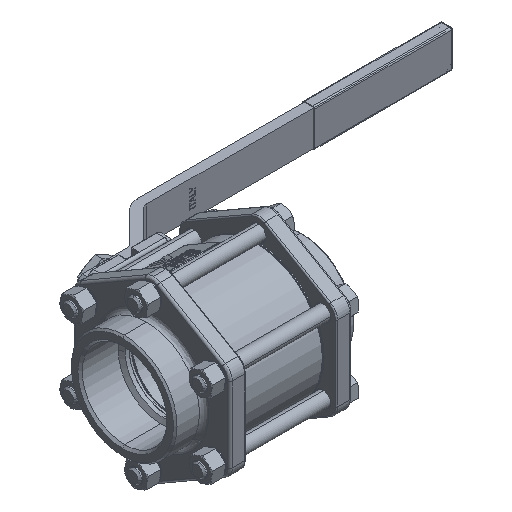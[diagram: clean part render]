
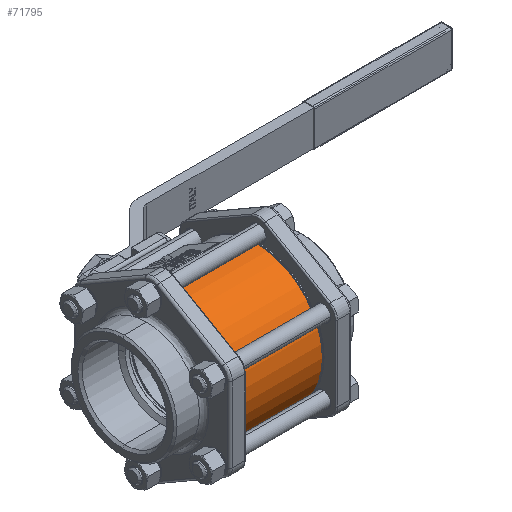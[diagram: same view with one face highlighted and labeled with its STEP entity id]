
A CAD part, isometric view. The second image highlights one B-rep face of the part: STEP entity #71795.
In plain terms, the highlighted cylindrical face has radius 56.5 mm (diameter 113 mm), a partial arc.
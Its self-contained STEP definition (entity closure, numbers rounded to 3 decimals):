
#52690 = DIRECTION ( 'NONE',  ( 1., 0., 0. ) ) ;
#52691 = CARTESIAN_POINT ( 'NONE',  ( -37.1, 0., 0. ) ) ;
#52692 = AXIS2_PLACEMENT_3D ( 'NONE', #52691, #52690, #52800 ) ;
#52693 = CIRCLE ( 'NONE', #52692, 56.5 ) ;
#52699 = CARTESIAN_POINT ( 'NONE',  ( -37.1, -56.5, 0. ) ) ;
#52798 = CARTESIAN_POINT ( 'NONE',  ( -37.1, 0., 56.5 ) ) ;
#52800 = DIRECTION ( 'NONE',  ( 0., 0., 1. ) ) ;
#54747 = CARTESIAN_POINT ( 'NONE',  ( 37.1, 0., -56.5 ) ) ;
#54882 = CARTESIAN_POINT ( 'NONE',  ( -37.1, 0., -56.5 ) ) ;
#54885 = DIRECTION ( 'NONE',  ( -1., 0., 0. ) ) ;
#54886 = VECTOR ( 'NONE', #54885, 1000. ) ;
#54888 = CARTESIAN_POINT ( 'NONE',  ( 37.1, 0., -56.5 ) ) ;
#54891 = LINE ( 'NONE', #54888, #54886 ) ;
#55339 = CARTESIAN_POINT ( 'NONE',  ( 37.1, -56.5, 0. ) ) ;
#55341 = DIRECTION ( 'NONE',  ( 0., 0., 1. ) ) ;
#55343 = DIRECTION ( 'NONE',  ( -1., 0., 0. ) ) ;
#55345 = CARTESIAN_POINT ( 'NONE',  ( 37.1, 0., 0. ) ) ;
#55346 = AXIS2_PLACEMENT_3D ( 'NONE', #55345, #55343, #55341 ) ;
#55348 = CIRCLE ( 'NONE', #55346, 56.5 ) ;
#55449 = CARTESIAN_POINT ( 'NONE',  ( 37.1, 0., 56.5 ) ) ;
#55452 = DIRECTION ( 'NONE',  ( -1., 0., 0. ) ) ;
#55454 = VECTOR ( 'NONE', #55452, 1000. ) ;
#55455 = CARTESIAN_POINT ( 'NONE',  ( 37.1, 0., 56.5 ) ) ;
#55458 = LINE ( 'NONE', #55455, #55454 ) ;
#66444 = VERTEX_POINT ( 'NONE', #52699 ) ;
#66448 = EDGE_CURVE ( 'NONE', #66451, #66444, #52693, .T. ) ;
#66451 = VERTEX_POINT ( 'NONE', #52798 ) ;
#66756 = VERTEX_POINT ( 'NONE', #54747 ) ;
#66763 = EDGE_CURVE ( 'NONE', #66756, #66765, #54891, .T. ) ;
#66765 = VERTEX_POINT ( 'NONE', #54882 ) ;
#66874 = EDGE_CURVE ( 'NONE', #66875, #66911, #55348, .T. ) ;
#66875 = VERTEX_POINT ( 'NONE', #55339 ) ;
#66910 = EDGE_CURVE ( 'NONE', #66911, #66451, #55458, .T. ) ;
#66911 = VERTEX_POINT ( 'NONE', #55449 ) ;
#68787 = DIRECTION ( 'NONE',  ( 0., 0., 1. ) ) ;
#68789 = DIRECTION ( 'NONE',  ( 1., 0., 0. ) ) ;
#68791 = CARTESIAN_POINT ( 'NONE',  ( -37.1, 0., 0. ) ) ;
#68793 = AXIS2_PLACEMENT_3D ( 'NONE', #68791, #68789, #68787 ) ;
#68803 = CIRCLE ( 'NONE', #68793, 56.5 ) ;
#68913 = DIRECTION ( 'NONE',  ( 0., 0., 1. ) ) ;
#68915 = DIRECTION ( 'NONE',  ( -1., 0., 0. ) ) ;
#68918 = CARTESIAN_POINT ( 'NONE',  ( 37.1, 0., 0. ) ) ;
#68920 = AXIS2_PLACEMENT_3D ( 'NONE', #68918, #68915, #68913 ) ;
#68923 = CIRCLE ( 'NONE', #68920, 56.5 ) ;
#69544 = DIRECTION ( 'NONE',  ( 0., 0., 1. ) ) ;
#69546 = DIRECTION ( 'NONE',  ( -1., 0., 0. ) ) ;
#69547 = AXIS2_PLACEMENT_3D ( 'NONE', #69559, #69546, #69544 ) ;
#69549 = CYLINDRICAL_SURFACE ( 'NONE', #69547, 56.5 ) ;
#69559 = CARTESIAN_POINT ( 'NONE',  ( 37.1, 0., 0. ) ) ;
#69561 = FACE_OUTER_BOUND ( 'NONE', #71613, .T. ) ;
#71613 = EDGE_LOOP ( 'NONE', ( #71615, #71617, #71620, #71625, #71628, #71630 ) ) ;
#71615 = ORIENTED_EDGE ( 'NONE', *, *, #66763, .F. ) ;
#71617 = ORIENTED_EDGE ( 'NONE', *, *, #71666, .T. ) ;
#71620 = ORIENTED_EDGE ( 'NONE', *, *, #66874, .T. ) ;
#71625 = ORIENTED_EDGE ( 'NONE', *, *, #66910, .T. ) ;
#71628 = ORIENTED_EDGE ( 'NONE', *, *, #66448, .T. ) ;
#71630 = ORIENTED_EDGE ( 'NONE', *, *, #71632, .T. ) ;
#71632 = EDGE_CURVE ( 'NONE', #66444, #66765, #68803, .T. ) ;
#71666 = EDGE_CURVE ( 'NONE', #66756, #66875, #68923, .T. ) ;
#71795 = ADVANCED_FACE ( 'NONE', ( #69561 ), #69549, .T. ) ;
